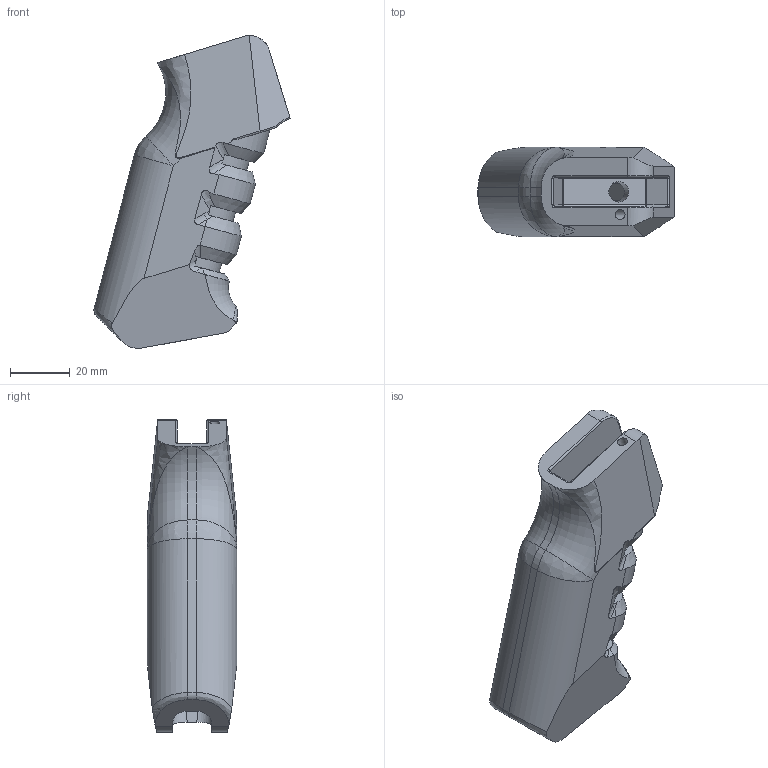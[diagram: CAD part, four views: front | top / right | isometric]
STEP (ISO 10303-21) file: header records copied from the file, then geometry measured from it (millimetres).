
FILE_DESCRIPTION(/* description */ (''),/* implementation_level */ '2;1');
FILE_NAME(/* name */ 'D:/Pew Pews/FGC-9_MkII_Stingray_Edition/Stingray Edition/.step files/5 - Pistol Grip/Pistol Grip .step',/* time_stamp */ '2022-05-12T10:56:02-06:00',/* author */ (''),/* organization */ (''),/* preprocessor_version */ 'ST-DEVELOPER v18.1',/* originating_system */ 'Autodesk Translation Framework v10.10.0.1391',/* authorisation */ '');
FILE_SCHEMA (('AUTOMOTIVE_DESIGN { 1 0 10303 214 3 1 1 }'));
Length unit declared in the file: millimetre
Products named in the file (1): Pistol Grip (1)
Bounding box: 65.38 x 29.84 x 104.3 mm (x, y, z)
Volume: 63493.5 mm3; surface area: 21791.7 mm2
Topology: 1 solids, 1 shells, 179 faces, 476 edges, 296 vertices
Faces by surface type: plane 63, cylinder 51, bspline 38, cone 13, torus 10, sphere 4
Full cylindrical faces by diameter (mm): 3.4 x1, 6.8 x1
Entity records: 7302 total; most frequent: CARTESIAN_POINT 3147, ORIENTED_EDGE 944, DIRECTION 747, EDGE_CURVE 472, VERTEX_POINT 296, AXIS2_PLACEMENT_3D 280, LINE 187, VECTOR 187
